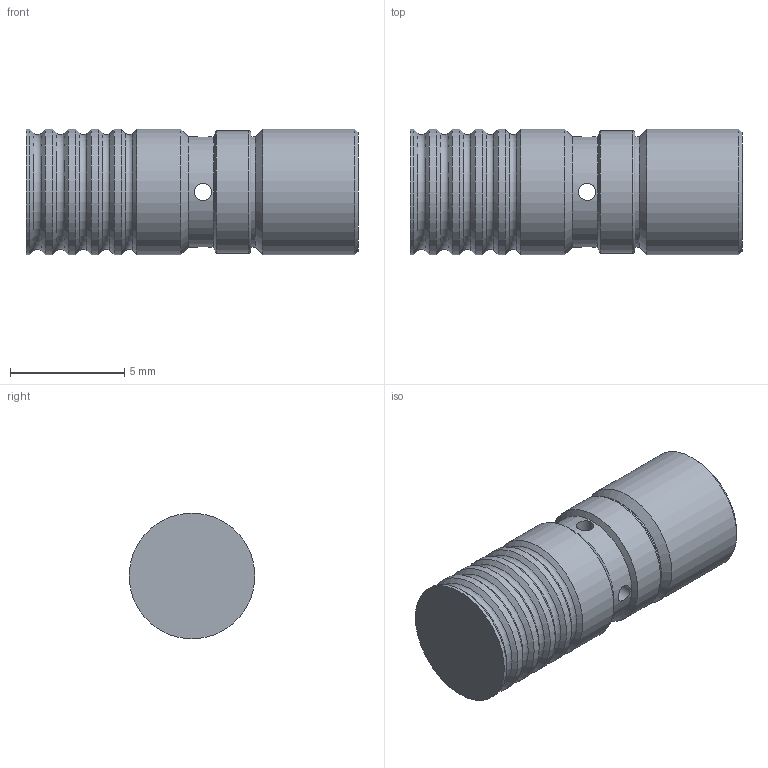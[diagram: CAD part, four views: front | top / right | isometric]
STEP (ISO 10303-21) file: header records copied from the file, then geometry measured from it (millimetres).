
FILE_DESCRIPTION(/* description */ ('POCR5531050S'),/* implementation_level */ '2;1');
FILE_NAME(/* name */ '\\absolute\smwork\Vernon\POCR5531050S.stp',/* time_stamp */ '2025-12-29T09:53:23-05:00',/* author */ ('VernonJ'),/* organization */ (''),/* preprocessor_version */ 'ST-DEVELOPER v18.1',/* originating_system */ 'Autodesk Inventor 2020',/* authorisation */ '');
FILE_SCHEMA (('AUTOMOTIVE_DESIGN { 1 0 10303 214 3 1 1 }'));
Length unit declared in the file: millimetre
Products named in the file (1): POCR5531050S
Bounding box: 14.5 x 5.49 x 5.49 mm (x, y, z)
Volume: 319.4 mm3; surface area: 333 mm2
Topology: 1 solids, 1 shells, 37 faces, 123 edges, 86 vertices
Faces by surface type: cylinder 14, cone 14, torus 6, plane 3
Full cylindrical faces by diameter (mm): 0.75 x4, 4.84 x2, 5.36 x1, 5.49 x7
Entity records: 1590 total; most frequent: CARTESIAN_POINT 384, DIRECTION 275, ORIENTED_EDGE 246, EDGE_CURVE 123, AXIS2_PLACEMENT_3D 123, VERTEX_POINT 86, CIRCLE 81, EDGE_LOOP 41
